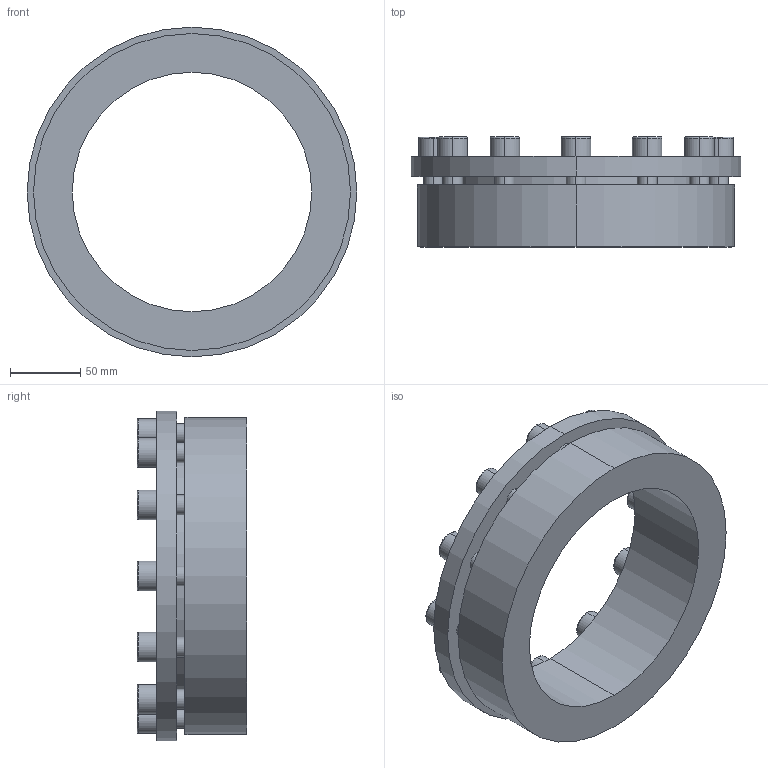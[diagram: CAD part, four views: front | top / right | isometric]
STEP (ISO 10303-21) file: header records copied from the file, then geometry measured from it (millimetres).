
FILE_DESCRIPTION (( 'STEP AP203' ), '1' );
FILE_NAME ('PL-H6 170-225.STEP', '2021-10-23T01:39:33', ( '' ), ( '' ), 'SwSTEP 2.0', 'SolidWorks 2018', '' );
FILE_SCHEMA (( 'CONFIG_CONTROL_DESIGN' ));
Length unit declared in the file: millimetre
Products named in the file (1): PL-H6 170-225
Bounding box: 234 x 78 x 234 mm (x, y, z)
Volume: 1111888.6 mm3; surface area: 161363.6 mm2
Topology: 1 solids, 1 shells, 180 faces, 432 edges, 280 vertices
Faces by surface type: plane 100, cylinder 56, torus 24
Entity records: 5373 total; most frequent: DIRECTION 954, CARTESIAN_POINT 893, ORIENTED_EDGE 864, EDGE_CURVE 432, AXIS2_PLACEMENT_3D 341, VERTEX_POINT 280, LINE 272, VECTOR 272
